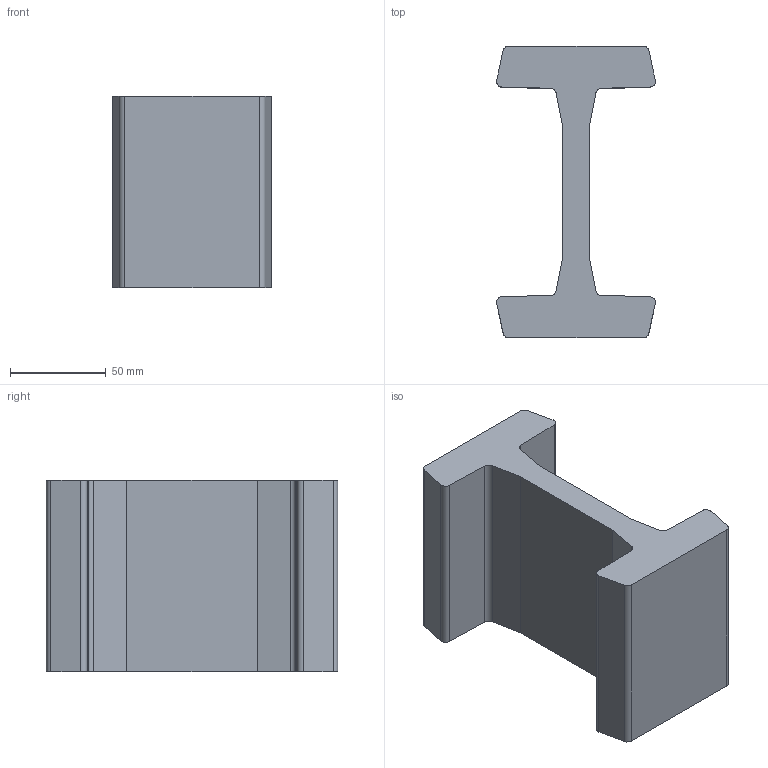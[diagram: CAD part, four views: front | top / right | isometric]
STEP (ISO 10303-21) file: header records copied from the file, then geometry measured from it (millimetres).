
FILE_DESCRIPTION (( 'STEP AP203' ), '1' );
FILE_NAME ('3D3100.STEP', '2002-11-20T10:06:12', ( 'Francesc' ), ( 'propia' ), 'SwSTEP 2.0', 'SolidWorks 2001039', '' );
FILE_SCHEMA (( 'CONFIG_CONTROL_DESIGN' ));
Length unit declared in the file: millimetre
Products named in the file (1): 2
Bounding box: 83 x 152.4 x 100 mm (x, y, z)
Volume: 514241.2 mm3; surface area: 66980.7 mm2
Topology: 1 solids, 1 shells, 32 faces, 90 edges, 60 vertices
Faces by surface type: plane 18, cylinder 14
Entity records: 1119 total; most frequent: DIRECTION 184, CARTESIAN_POINT 183, ORIENTED_EDGE 180, EDGE_CURVE 90, LINE 62, VECTOR 62, AXIS2_PLACEMENT_3D 61, VERTEX_POINT 60
